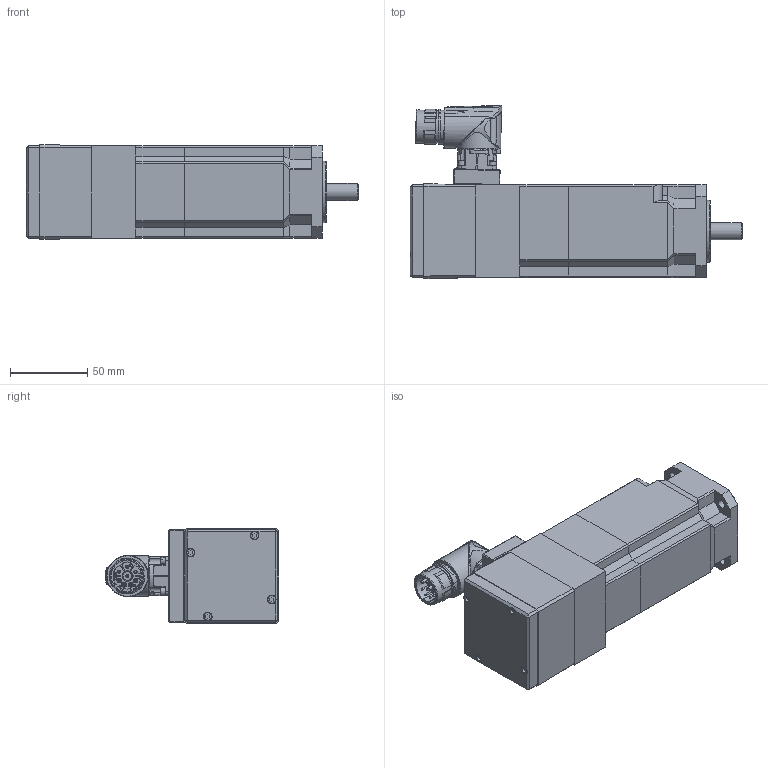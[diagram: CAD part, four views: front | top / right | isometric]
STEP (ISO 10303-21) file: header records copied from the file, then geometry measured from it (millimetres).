
FILE_DESCRIPTION(/* description */ (''),/* implementation_level */ '2;1');
FILE_NAME(/* name */ 'D:\InventorWorkspace2017\CAD\Projekte_EDEM\HLR\Zubehörteile\SMHA60601,4811SIZ64S62.stp',/* time_stamp */ '2019-02-13T12:28:02+01:00',/* author */ ('544672'),/* organization */ (''),/* preprocessor_version */ 'ST-DEVELOPER v16.5',/* originating_system */ 'Autodesk Inventor 2017',/* authorisation */ '');
FILE_SCHEMA (('AUTOMOTIVE_DESIGN { 1 0 10303 214 3 1 1 }'));
Length unit declared in the file: millimetre
Products named in the file (1): SMHA60451.4811SIZ64S62
Bounding box: 214.5 x 111.84 x 61.17 mm (x, y, z)
Volume: 703434.4 mm3; surface area: 66028.9 mm2
Topology: 1 solids, 1 shells, 777 faces, 1955 edges, 1244 vertices
Faces by surface type: plane 441, cylinder 182, bspline 98, cone 33, torus 23
Full cylindrical faces by diameter (mm): 1 x4, 1.18 x4, 1.75 x1, 1.945 x1, 2 x4, 2.8 x4, 3 x4, 3.167 x1, 4 x1, 4.333 x1, 4.5 x5, 5.5 x8, 5.8 x1, 5.9 x1, 6.8 x1, 11 x1, 12 x1, 19.9 x1, 21.145 x1, 21.6 x1, 21.8 x1, 21.9 x1, 24.4 x1, 28 x1, 40 x1
Entity records: 25925 total; most frequent: CARTESIAN_POINT 7466, ORIENTED_EDGE 3670, DIRECTION 3417, EDGE_CURVE 1835, VERTEX_POINT 1209, AXIS2_PLACEMENT_3D 1156, LINE 1105, VECTOR 1105
